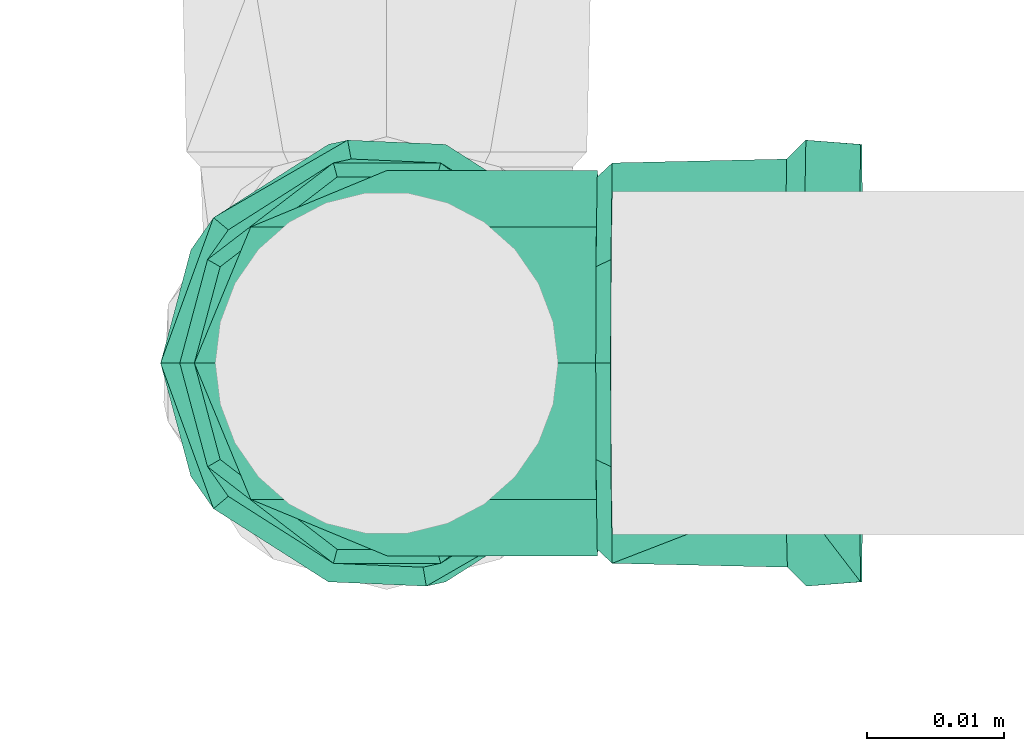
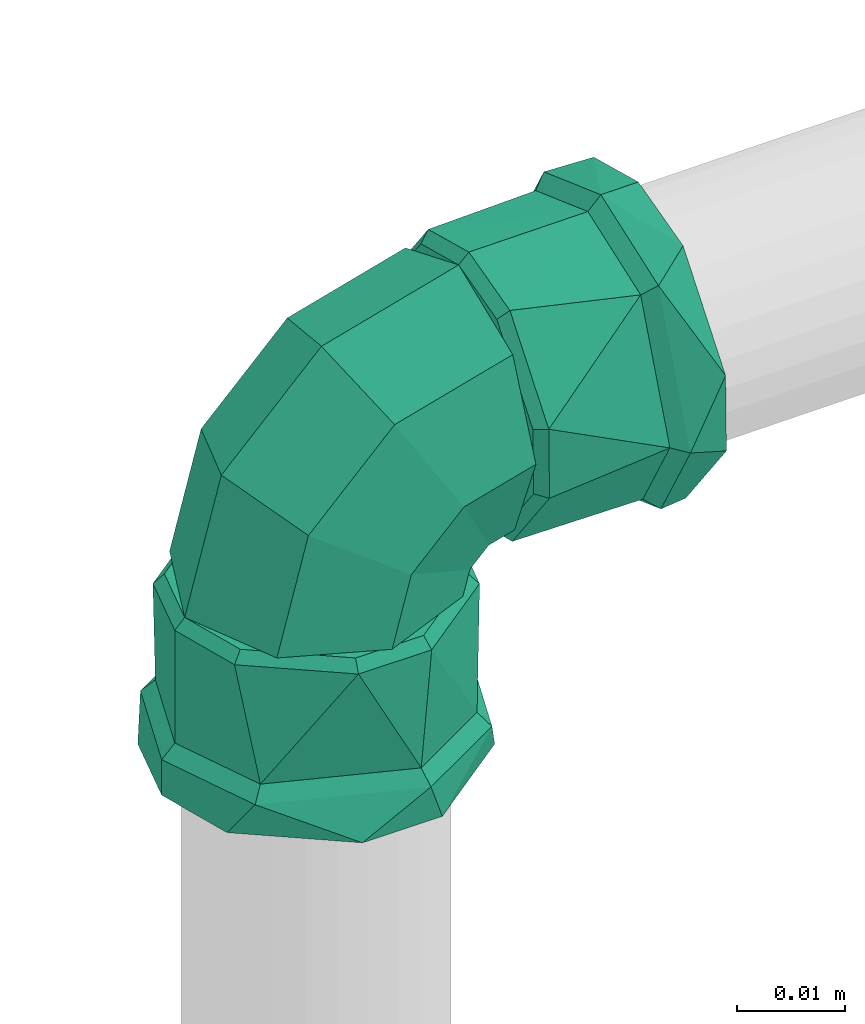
# One storey, part 390 of 589: 1 flow fitting.
"""IFC2X3 building model written with IfcOpenShell, lengths in millimetres."""

from ifc_helpers import new_model, entity, si_unit, converted_unit, derived_unit, direction, frame, origin, place, context, subcontext, project, spatial, faceted_brep, source, transform, mapped, material, type_object, type_shapes, element, save


model = new_model("IFC2X3")

# Units and contexts
model_context = context("Model", 3, precision=0.01, world=origin(), true_north=direction((6.123031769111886e-17, 1.0)))
body_context = subcontext(model_context, "Body", "Model", "MODEL_VIEW")
ifc_project = project(units=[si_unit("LENGTHUNIT", "METRE", prefix="MILLI"), si_unit("AREAUNIT", "SQUARE_METRE"), si_unit("VOLUMEUNIT", "CUBIC_METRE"), converted_unit("PLANEANGLEUNIT", "DEGREE", entity("IfcRatioMeasure", 0.017453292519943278), si_unit("PLANEANGLEUNIT", "RADIAN"), dimensions=[0, 0, 0, 0, 0, 0, 0]), si_unit("MASSUNIT", "GRAM", prefix="KILO"), derived_unit("MASSDENSITYUNIT", [(si_unit("MASSUNIT", "GRAM", prefix="KILO"), 1), (si_unit("LENGTHUNIT", "METRE"), -3)]), derived_unit("IONCONCENTRATIONUNIT", [(si_unit("MASSUNIT", "GRAM", prefix="KILO"), 1), (si_unit("LENGTHUNIT", "METRE"), -3)]), derived_unit("MOMENTOFINERTIAUNIT", [(si_unit("LENGTHUNIT", "METRE"), 4)]), si_unit("TIMEUNIT", "SECOND"), si_unit("FREQUENCYUNIT", "HERTZ"), si_unit("THERMODYNAMICTEMPERATUREUNIT", "DEGREE_CELSIUS"), derived_unit("THERMALTRANSMITTANCEUNIT", [(si_unit("MASSUNIT", "GRAM", prefix="KILO"), 1), (si_unit("THERMODYNAMICTEMPERATUREUNIT", "KELVIN"), -1), (si_unit("TIMEUNIT", "SECOND"), -3)]), derived_unit("THERMALCONDUCTANCEUNIT", [(si_unit("MASSUNIT", "GRAM", prefix="KILO"), 1), (si_unit("THERMODYNAMICTEMPERATUREUNIT", "KELVIN"), -1), (si_unit("TIMEUNIT", "SECOND"), -3), (si_unit("LENGTHUNIT", "METRE"), 1)]), derived_unit("VOLUMETRICFLOWRATEUNIT", [(si_unit("LENGTHUNIT", "METRE"), 3), (si_unit("TIMEUNIT", "SECOND"), -1)]), derived_unit("MASSFLOWRATEUNIT", [(si_unit("MASSUNIT", "GRAM", prefix="KILO"), 1), (si_unit("TIMEUNIT", "SECOND"), -1)]), derived_unit("ROTATIONALFREQUENCYUNIT", [(si_unit("TIMEUNIT", "SECOND"), -1)]), si_unit("ELECTRICCURRENTUNIT", "AMPERE"), si_unit("ELECTRICVOLTAGEUNIT", "VOLT"), si_unit("POWERUNIT", "WATT"), si_unit("FORCEUNIT", "NEWTON", prefix="KILO"), si_unit("ILLUMINANCEUNIT", "LUX"), si_unit("LUMINOUSFLUXUNIT", "LUMEN"), si_unit("LUMINOUSINTENSITYUNIT", "CANDELA"), derived_unit("USERDEFINED", [(si_unit("MASSUNIT", "GRAM", prefix="KILO"), -1), (si_unit("LENGTHUNIT", "METRE"), -2), (si_unit("TIMEUNIT", "SECOND"), 3), (si_unit("LUMINOUSFLUXUNIT", "LUMEN"), 1)]), derived_unit("USERDEFINED", [(si_unit("MASSUNIT", "GRAM", prefix="KILO"), 1), (si_unit("TIMEUNIT", "SECOND"), -3), (si_unit("LENGTHUNIT", "METRE"), 3), (si_unit("ELECTRICCURRENTUNIT", "AMPERE"), -2)]), derived_unit("SOUNDPOWERUNIT", [(si_unit("MASSUNIT", "GRAM", prefix="KILO"), 1), (si_unit("TIMEUNIT", "SECOND"), -3), (si_unit("LENGTHUNIT", "METRE"), 2)]), derived_unit("SOUNDPRESSUREUNIT", [(si_unit("MASSUNIT", "GRAM", prefix="KILO"), 1), (si_unit("LENGTHUNIT", "METRE"), -1), (si_unit("TIMEUNIT", "SECOND"), -2)]), derived_unit("LINEARVELOCITYUNIT", [(si_unit("LENGTHUNIT", "METRE"), 1), (si_unit("TIMEUNIT", "SECOND"), -1)]), si_unit("PRESSUREUNIT", "PASCAL"), derived_unit("USERDEFINED", [(si_unit("MASSUNIT", "GRAM", prefix="KILO"), 1), (si_unit("LENGTHUNIT", "METRE"), -2), (si_unit("TIMEUNIT", "SECOND"), -2)]), derived_unit("LINEARFORCEUNIT", [(si_unit("MASSUNIT", "GRAM", prefix="KILO"), 1), (si_unit("TIMEUNIT", "SECOND"), -2)]), derived_unit("PLANARFORCEUNIT", [(si_unit("MASSUNIT", "GRAM", prefix="KILO"), 1), (si_unit("LENGTHUNIT", "METRE"), -1), (si_unit("TIMEUNIT", "SECOND"), -2)]), derived_unit("SPECIFICHEATCAPACITYUNIT", [(si_unit("THERMODYNAMICTEMPERATUREUNIT", "KELVIN"), -1), (si_unit("LENGTHUNIT", "METRE"), 2), (si_unit("TIMEUNIT", "SECOND"), -2)]), derived_unit("HEATINGVALUEUNIT", [(si_unit("LENGTHUNIT", "METRE"), 2), (si_unit("TIMEUNIT", "SECOND"), -2)]), derived_unit("VAPORPERMEABILITYUNIT", [(si_unit("LENGTHUNIT", "METRE"), -1), (si_unit("TIMEUNIT", "SECOND"), 1)]), derived_unit("DYNAMICVISCOSITYUNIT", [(si_unit("MASSUNIT", "GRAM", prefix="KILO"), 1), (si_unit("TIMEUNIT", "SECOND"), -1), (si_unit("LENGTHUNIT", "METRE"), -1)]), derived_unit("THERMALEXPANSIONCOEFFICIENTUNIT", [(si_unit("THERMODYNAMICTEMPERATUREUNIT", "KELVIN"), -1)]), derived_unit("MODULUSOFELASTICITYUNIT", [(si_unit("MASSUNIT", "GRAM", prefix="KILO"), 1), (si_unit("LENGTHUNIT", "METRE"), -1), (si_unit("TIMEUNIT", "SECOND"), -2)]), derived_unit("ISOTHERMALMOISTURECAPACITYUNIT", [(si_unit("LENGTHUNIT", "METRE"), 3), (si_unit("MASSUNIT", "GRAM", prefix="KILO"), -1)]), derived_unit("MOISTUREDIFFUSIVITYUNIT", [(si_unit("TIMEUNIT", "SECOND"), -1), (si_unit("LENGTHUNIT", "METRE"), 2)])], contexts=[model_context])

# Site, building, storey
site_placement = place(None, origin())
site = spatial("IfcSite", under=ifc_project, at=site_placement, Name="Default", CompositionType="ELEMENT")
building_placement = place(site_placement, origin())
building = spatial("IfcBuilding", under=site, at=building_placement, CompositionType="ELEMENT")
storey_placement = place(building_placement, frame((0.0, 0.0, 100.0)))
storey = spatial("IfcBuildingStorey", under=building, at=storey_placement, Name="TÉRREO", CompositionType="ELEMENT", Elevation=100.0)

# Flow fitting
ifc_material = material(Name="PVC Marrom")
pipe_fitting_type = type_object("IfcPipeFittingType", Name="PVC Marrom Soldável_Joelho 45°_90°_Rodrigo MEP:Joelho", PredefinedType="NOTDEFINED", material=ifc_material)
shared_shape = source(origin(), body_context, "Body", "Brep", [
    faceted_brep([(4.072421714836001, -16.405873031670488, 14.585479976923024), (-3.7435226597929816, -16.48403247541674, 14.585479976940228), (-12.911880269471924, -16.57571605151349, 7.549999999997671), (-14.934795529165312, -16.59594520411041, 0.0), (-12.91188026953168, -16.575716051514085, -7.550000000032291), (-3.7435226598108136, -16.48403247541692, -14.585479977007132), (4.07242171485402, -16.405873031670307, -14.585479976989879), (13.240779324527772, -16.314189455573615, -7.55000000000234), (15.263694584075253, -16.29396030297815, 0.0), (13.240779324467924, -16.314189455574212, 7.549999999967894), (3.7870877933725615, -15.308671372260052, 13.561598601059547), (12.31183884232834, -15.223423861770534, 7.019999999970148), (14.192748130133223, -15.204614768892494, 0.0), (12.311838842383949, -15.223423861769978, -7.02000000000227), (3.7870877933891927, -15.308671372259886, -13.561598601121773), (-3.480187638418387, -15.381344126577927, -13.561598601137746), (-12.004938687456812, -15.466591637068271, -7.020000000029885), (-13.885847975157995, -15.485400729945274, 0.0), (-12.004938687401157, -15.466591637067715, 7.0199999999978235), (-3.4801876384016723, -15.38134412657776, 13.561598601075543)], [[[0, 1, 2, 3, 4, 5, 6, 7, 8, 9]], [[10, 11, 12, 13, 14, 15, 16, 17, 18, 19]], [[13, 12, 8, 7]], [[14, 13, 7, 6]], [[6, 5, 15, 14]], [[16, 15, 5, 4]], [[17, 16, 4, 3]], [[18, 17, 3, 2]], [[19, 18, 2, 1]], [[1, 0, 10, 19]], [[11, 10, 0, 9]], [[12, 11, 9, 8]]]),
    faceted_brep([(-16.445774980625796, -3.908167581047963, 14.585479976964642), (-16.445774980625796, 3.908167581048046, 14.585479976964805), (-16.445774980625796, 13.076983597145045, 7.550000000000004), (-16.445774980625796, 15.100000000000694, 0.0), (-16.445774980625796, 13.0769835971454, -7.550000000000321), (-16.445774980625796, 3.9081675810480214, -14.585479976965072), (-16.445774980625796, -3.9081675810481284, -14.58547997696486), (-16.445774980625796, -13.076983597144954, -7.54999999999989), (-16.445774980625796, -15.099999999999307, 0.0), (-16.445774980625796, -13.076983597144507, 7.549999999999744), (-15.345774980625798, 3.633819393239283, 13.56159860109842), (-15.345774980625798, -3.6338193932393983, 13.561598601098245), (-15.345774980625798, -12.158996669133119, 7.019999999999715), (-15.345774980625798, -14.040000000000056, 0.0), (-15.345774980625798, -12.158996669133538, -7.019999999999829), (-15.345774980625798, -3.6338193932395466, -13.56159860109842), (-15.345774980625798, 3.63381939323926, -13.561598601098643), (-15.345774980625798, 12.158996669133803, -7.020000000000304), (-15.345774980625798, 14.039999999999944, 0.0), (-15.345774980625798, 12.15899666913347, 7.020000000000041)], [[[0, 1, 2, 3, 4, 5, 6, 7, 8, 9]], [[10, 11, 12, 13, 14, 15, 16, 17, 18, 19]], [[14, 13, 8, 7]], [[15, 14, 7, 6]], [[6, 5, 16, 15]], [[17, 16, 5, 4]], [[18, 17, 4, 3]], [[19, 18, 3, 2]], [[10, 19, 2, 1]], [[1, 0, 11, 10]], [[12, 11, 0, 9]], [[13, 12, 9, 8]]]),
    faceted_brep([(-34.545774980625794, 0.0, -12.5), (-34.545774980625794, 6.250000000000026, -10.825317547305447), (-34.545774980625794, 4.2705142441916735, -15.937776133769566), (-34.545774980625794, -4.270514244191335, -15.937776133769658), (-34.545774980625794, -6.250000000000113, -10.82531754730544), (-34.545774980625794, 14.289419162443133, -8.25000000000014), (-34.545774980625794, 12.074072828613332, -3.23523806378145), (-34.545774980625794, 16.5, 0.0), (-34.545774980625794, 12.074072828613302, 3.2352380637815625), (-34.545774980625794, 14.289419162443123, 8.249999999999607), (-34.545774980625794, 6.249999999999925, 10.825317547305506), (-34.545774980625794, 4.27051424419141, 15.937776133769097), (-34.545774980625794, 0.0, 12.5), (-34.545774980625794, -4.270514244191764, 15.937776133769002), (-34.545774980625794, -6.249999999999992, 10.825317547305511), (-34.545774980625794, -14.28941916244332, 8.249999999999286), (-34.545774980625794, -12.074072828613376, 3.2352380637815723), (-34.545774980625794, -16.5, 0.0), (-34.545774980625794, -12.074072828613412, -3.235238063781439), (-34.545774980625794, -14.289419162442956, -8.250000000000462), (-30.545774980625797, -16.5, 0.0), (-30.545774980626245, -12.639142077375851, 10.606700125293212), (-30.545774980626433, -4.885841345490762, 13.427814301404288), (-30.54577498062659, 2.8674593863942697, 16.24892847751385), (-30.545774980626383, 12.64180232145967, 10.603529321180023), (-30.545774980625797, 16.499999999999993, 0.0), (-30.545774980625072, 12.641802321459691, -10.603529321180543), (-30.545774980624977, 4.889209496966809, -13.426588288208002), (-30.54577498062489, -2.8633833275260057, -16.249647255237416), (-30.545774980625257, -12.639142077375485, -10.606700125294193), (-29.145774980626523, 11.56916454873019, 9.703835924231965), (-29.145774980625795, 15.099999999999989, 0.0), (-29.145774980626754, 2.624159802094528, 14.870231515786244), (-29.145774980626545, -4.471285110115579, 12.288484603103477), (-29.14577498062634, -11.566730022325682, 9.706737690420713), (-29.145774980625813, -15.099999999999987, 0.0), (-29.14577498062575, -11.566730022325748, -9.706737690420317), (-29.145774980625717, -2.620429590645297, -14.87088930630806), (-29.14577498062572, 4.4743674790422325, -12.287362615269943), (-29.145774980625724, 11.569164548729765, -9.703835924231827), (-16.445774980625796, 3.908167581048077, -14.585479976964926), (-16.445774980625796, 6.250000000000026, -10.825317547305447), (-16.445774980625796, 0.0, -12.5), (-16.445774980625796, 13.076983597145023, -7.549999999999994), (-16.445774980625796, -3.9081675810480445, -14.585479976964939), (-16.445774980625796, 12.074072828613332, -3.23523806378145), (-16.445774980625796, 15.099999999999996, 0.0), (-16.445774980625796, 12.074072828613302, 3.2352380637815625), (-16.445774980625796, 13.076983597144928, 7.550000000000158), (-16.445774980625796, 6.249999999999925, 10.825317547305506), (-16.445774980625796, 3.9081675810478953, 14.585479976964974), (-16.445774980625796, 0.0, 12.5), (-16.445774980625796, -3.9081675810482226, 14.58547997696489), (-16.445774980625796, -6.249999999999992, 10.825317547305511), (-16.445774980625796, -13.076983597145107, 7.549999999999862), (-16.445774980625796, -12.074072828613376, 3.2352380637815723), (-16.445774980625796, -15.100000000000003, 0.0), (-16.445774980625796, -12.074072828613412, -3.235238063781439), (-16.445774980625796, -13.076983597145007, -7.550000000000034), (-16.445774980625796, -6.250000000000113, -10.82531754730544)], [[[0, 1, 2]], [[2, 3, 0]], [[4, 0, 3]], [[5, 2, 1]], [[1, 6, 5]], [[6, 7, 5]], [[8, 7, 6]], [[7, 8, 9]], [[10, 9, 8]], [[9, 10, 11]], [[12, 11, 10]], [[13, 11, 12]], [[12, 14, 13]], [[13, 14, 15]], [[16, 15, 14]], [[15, 16, 17]], [[16, 18, 17]], [[19, 18, 4]], [[17, 18, 19]], [[3, 19, 4]], [[20, 15, 17]], [[20, 21, 15]], [[13, 15, 21]], [[13, 21, 22, 23]], [[9, 11, 24]], [[7, 9, 25]], [[23, 24, 11]], [[25, 9, 24]], [[13, 23, 11]], [[25, 5, 7]], [[25, 26, 5]], [[2, 5, 26]], [[2, 26, 27, 28]], [[19, 3, 29]], [[17, 19, 20]], [[28, 29, 3]], [[20, 19, 29]], [[2, 28, 3]], [[24, 30, 31, 25]], [[30, 24, 23, 32]], [[33, 32, 23, 22, 21, 34]], [[20, 35, 34, 21]], [[29, 36, 35, 20]], [[36, 29, 28, 37]], [[38, 37, 28, 27, 26, 39]], [[25, 31, 39, 26]], [[40, 41, 42]], [[41, 40, 43]], [[42, 44, 40]], [[43, 45, 41]], [[43, 46, 45]], [[45, 46, 47]], [[48, 47, 46]], [[47, 48, 49]], [[50, 49, 48]], [[49, 50, 51]], [[51, 50, 52]], [[52, 53, 51]], [[54, 53, 52]], [[53, 54, 55]], [[56, 55, 54]], [[56, 57, 55]], [[58, 57, 56]], [[59, 57, 58]], [[59, 58, 44]], [[44, 42, 59]], [[54, 34, 35]], [[56, 54, 35]], [[52, 34, 54]], [[52, 32, 33, 34]], [[30, 32, 50]], [[31, 30, 48]], [[50, 48, 30]], [[46, 31, 48]], [[52, 50, 32]], [[43, 39, 31]], [[46, 43, 31]], [[40, 39, 43]], [[40, 37, 38, 39]], [[36, 37, 44]], [[35, 36, 58]], [[44, 58, 36]], [[56, 35, 58]], [[40, 44, 37]], [[49, 51, 12, 10]], [[47, 49, 10, 8]], [[8, 6, 45, 47]], [[41, 45, 6, 1]], [[42, 41, 1, 0]], [[59, 42, 0, 4]], [[57, 59, 4, 18]], [[18, 16, 55, 57]], [[53, 55, 16, 14]], [[51, 53, 14, 12]]]),
    faceted_brep([(10.13758433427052, -0.5597858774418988, 0.0), (6.590082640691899, -2.6395915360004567, 9.92777920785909), (10.080732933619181, -15.245734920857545, 9.92777920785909), (14.192748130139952, -15.20461476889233, 0.0), (-1.9743440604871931, -7.660686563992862, 14.04), (0.15345007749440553, -15.34500774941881, 14.04), (-10.538770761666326, -12.681781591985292, 9.927779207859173), (-9.77383277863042, -15.444280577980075, 9.927779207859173), (-14.086272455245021, -14.761587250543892, 0.0), (-13.885847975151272, -15.48540072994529, 0.0), (-10.538770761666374, -12.681781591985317, -9.92777920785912), (-9.77383277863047, -15.444280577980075, -9.92777920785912), (-1.974344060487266, -7.660686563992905, -14.04), (0.15345007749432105, -15.34500774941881, -14.04), (6.590082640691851, -2.6395915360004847, -9.927779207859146), (10.080732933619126, -15.245734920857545, -9.927779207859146), (-0.6611286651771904, 10.131479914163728, 0.0), (-2.7053570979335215, 6.563358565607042, 9.92777920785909), (-7.640561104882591, -2.050848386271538, 14.04), (-12.575765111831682, -10.665055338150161, 9.927779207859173), (-14.619993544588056, -14.233176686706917, 0.0), (-12.57576511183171, -10.665055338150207, -9.92777920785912), (-7.640561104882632, -2.050848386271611, -14.04), (-2.705357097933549, 6.563358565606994, -9.927779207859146), (-15.345774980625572, 14.03999999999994, 0.0), (-15.3457749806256, 9.927779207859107, 9.92777920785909), (-15.345774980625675, 0.0, 14.04), (-15.345774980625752, -9.927779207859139, 9.927779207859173), (-15.345774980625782, -14.040000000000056, 0.0), (-15.345774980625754, -9.927779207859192, -9.92777920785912), (-15.345774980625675, 0.0, -14.04), (-15.3457749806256, 9.92777920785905, -9.927779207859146)], [[[0, 1, 2, 3]], [[1, 4, 5, 2]], [[4, 6, 7, 5]], [[6, 8, 9, 7]], [[8, 10, 11, 9]], [[10, 12, 13, 11]], [[12, 14, 15, 13]], [[14, 0, 3, 15]], [[16, 17, 1, 0]], [[17, 18, 4, 1]], [[18, 19, 6, 4]], [[19, 20, 8, 6]], [[20, 21, 10, 8]], [[21, 22, 12, 10]], [[22, 23, 14, 12]], [[23, 16, 0, 14]], [[24, 25, 17, 16]], [[25, 26, 18, 17]], [[26, 27, 19, 18]], [[27, 28, 20, 19]], [[28, 29, 21, 20]], [[29, 30, 22, 21]], [[30, 31, 23, 22]], [[31, 24, 16, 23]], [[3, 2, 5, 7, 9, 11, 13, 15]], [[31, 30, 29, 28, 27, 26, 25, 24]]]),
    faceted_brep([(-3.743522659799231, -16.484032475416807, -14.585479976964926), (-6.085237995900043, -16.507449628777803, -10.825317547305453), (0.16444952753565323, -16.444952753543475, -12.5), (-12.911880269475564, -16.575716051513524, -7.5499999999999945), (4.072421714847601, -16.40587303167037, -14.585479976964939), (-11.90901964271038, -16.565687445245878, -3.235238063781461), (-14.934795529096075, -16.595945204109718, 0.0), (-11.90901964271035, -16.565687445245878, 3.2352380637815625), (-12.911880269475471, -16.575716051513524, 7.550000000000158), (-6.08523799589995, -16.507449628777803, 10.825317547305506), (-3.7435226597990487, -16.484032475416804, 14.585479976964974), (0.16444952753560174, -16.444952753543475, 12.5), (4.0724217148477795, -16.40587303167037, 14.58547997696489), (6.414137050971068, -16.38245587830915, 10.825317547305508), (13.240779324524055, -16.31418945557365, 7.549999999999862), (12.23791869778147, -16.324218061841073, 3.2352380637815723), (15.263694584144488, -16.293960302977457, 0.0), (12.23791869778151, -16.324218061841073, -3.235238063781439), (13.240779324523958, -16.31418945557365, -7.550000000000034), (6.414137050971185, -16.38245587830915, -10.82531754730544), (11.85759490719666, -29.02865628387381, 9.706737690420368), (15.39068823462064, -28.99332535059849, 0.0), (2.911741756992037, -29.11811481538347, 14.870889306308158), (-11.27714295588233, -29.260003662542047, 9.703835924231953), (-4.182700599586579, -29.189059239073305, 12.287362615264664), (-14.807801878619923, -29.29531025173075, 0.0), (-11.27714295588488, -29.26000366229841, -9.703835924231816), (-2.332585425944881, -29.170558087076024, -14.870231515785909), (11.857594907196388, -29.028656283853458, -9.706737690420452), (4.76250474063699, -29.099607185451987, -12.28848460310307), (3.1727585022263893, -30.515574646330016, 16.248928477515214), (-4.580154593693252, -30.59310377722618, 13.427814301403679), (-16.193732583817, -30.709239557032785, 0.0), (-12.333067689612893, -30.670632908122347, 10.606700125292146), (12.946612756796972, -30.41783610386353, 10.603529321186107), (16.80461753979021, -30.37925605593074, 0.0), (12.946612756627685, -30.41783610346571, -10.603529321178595), (5.194407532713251, -30.495358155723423, -13.426588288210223), (-2.557797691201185, -30.572880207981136, -16.249647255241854), (-12.333067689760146, -30.670632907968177, -10.606700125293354), (0.34544047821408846, -34.54404782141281, -12.5), (-5.904247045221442, -34.606544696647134, -10.825317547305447), (-3.9248602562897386, -34.58675082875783, -15.937776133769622), (4.61574121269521, -34.50134481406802, -15.937776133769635), (6.595128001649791, -34.48155094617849, -10.82531754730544), (-13.94326426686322, -34.68693486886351, -8.24999999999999), (-11.72802869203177, -34.664782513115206, -3.23523806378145), (-16.153734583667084, -34.709039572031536, 0.0), (-11.72802869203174, -34.664782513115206, 3.2352380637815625), (-13.943264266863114, -34.68693486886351, 8.250000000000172), (-5.904247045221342, -34.606544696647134, 10.825317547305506), (-3.92486025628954, -34.58675082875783, 15.937776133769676), (0.34544047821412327, -34.54404782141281, 12.5), (4.615741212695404, -34.50134481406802, 15.937776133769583), (6.5951280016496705, -34.48155094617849, 10.825317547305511), (14.63414522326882, -34.40116077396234, 8.24999999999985), (12.418909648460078, -34.423313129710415, 3.2352380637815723), (16.844615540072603, -34.37905607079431, 0.0), (12.418909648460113, -34.423313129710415, -3.235238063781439), (14.634145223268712, -34.40116077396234, -8.250000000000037)], [[[0, 1, 2]], [[1, 0, 3]], [[2, 4, 0]], [[3, 5, 1]], [[3, 6, 5]], [[5, 6, 7]], [[8, 7, 6]], [[7, 8, 9]], [[10, 9, 8]], [[9, 10, 11]], [[11, 10, 12]], [[12, 13, 11]], [[14, 13, 12]], [[13, 14, 15]], [[16, 15, 14]], [[16, 17, 15]], [[18, 17, 16]], [[19, 17, 18]], [[19, 18, 4]], [[4, 2, 19]], [[14, 20, 21]], [[16, 14, 21]], [[12, 20, 14]], [[12, 22, 20]], [[10, 23, 24, 22]], [[25, 23, 8]], [[10, 8, 23]], [[6, 25, 8]], [[12, 10, 22]], [[3, 26, 25]], [[6, 3, 25]], [[0, 26, 3]], [[0, 27, 26]], [[4, 28, 29, 27]], [[21, 28, 18]], [[4, 18, 28]], [[16, 21, 18]], [[0, 4, 27]], [[30, 22, 31]], [[32, 23, 25]], [[33, 23, 32]], [[31, 24, 33]], [[34, 21, 20]], [[24, 23, 33]], [[20, 30, 34]], [[21, 34, 35]], [[24, 31, 22]], [[22, 30, 20]], [[36, 28, 21]], [[21, 35, 36]], [[36, 37, 28]], [[37, 29, 28]], [[37, 38, 29]], [[32, 25, 26]], [[27, 39, 26]], [[32, 26, 39]], [[27, 29, 38]], [[38, 39, 27]], [[40, 41, 42]], [[42, 43, 40]], [[44, 40, 43]], [[45, 42, 41]], [[41, 46, 45]], [[46, 47, 45]], [[48, 47, 46]], [[47, 48, 49]], [[50, 49, 48]], [[49, 50, 51]], [[52, 51, 50]], [[53, 51, 52]], [[52, 54, 53]], [[53, 54, 55]], [[56, 55, 54]], [[55, 56, 57]], [[56, 58, 57]], [[59, 58, 44]], [[57, 58, 59]], [[43, 59, 44]], [[35, 55, 57]], [[35, 34, 55]], [[53, 55, 34]], [[30, 53, 34]], [[49, 51, 33]], [[47, 49, 32]], [[51, 30, 31, 33]], [[32, 49, 33]], [[53, 30, 51]], [[32, 45, 47]], [[32, 39, 45]], [[42, 45, 39]], [[38, 42, 39]], [[59, 43, 36]], [[57, 59, 35]], [[43, 38, 37, 36]], [[35, 59, 36]], [[42, 38, 43]], [[9, 11, 52, 50]], [[7, 9, 50, 48]], [[48, 46, 5, 7]], [[1, 5, 46, 41]], [[2, 1, 41, 40]], [[19, 2, 40, 44]], [[17, 19, 44, 58]], [[58, 56, 15, 17]], [[13, 15, 56, 54]], [[11, 13, 54, 52]]]),
])
type_shapes(pipe_fitting_type, [shared_shape])
flow_fitting_placement = place(storey_placement, frame((-288.32285606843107, 1487.6480909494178, 2576.2755187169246), z_axis=(0.0, 1.0, 0.0), x_axis=(-0.9999500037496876, 0.0, -0.009999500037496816)))
element("IfcFlowFitting", 1, at=flow_fitting_placement, inside=storey, type_object=pipe_fitting_type, material=ifc_material, Name="PVC Marrom Soldável_Joelho 45°_90°_Rodrigo MEP:Joelho", ObjectType="PVC Marrom Soldável_Joelho 45°_90°_Rodrigo MEP:Joelho", context=body_context, shape_type="MappedRepresentation", body=[
    mapped(shared_shape, transform((0.0, 0.0, 0.0), scale=1.0)),
])

save(model, "model.ifc")
